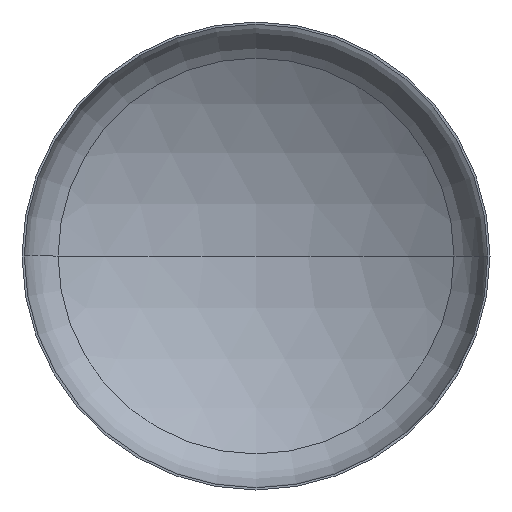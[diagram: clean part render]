
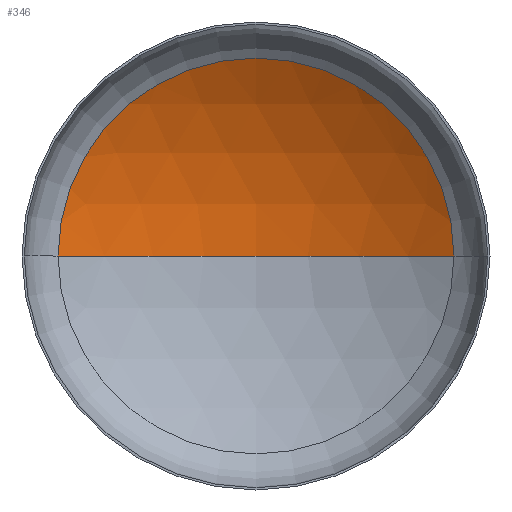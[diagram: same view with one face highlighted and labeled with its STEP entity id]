
A CAD part, front view. The second image highlights one B-rep face of the part: STEP entity #346.
In plain terms, the highlighted spherical face has radius 4400 mm.
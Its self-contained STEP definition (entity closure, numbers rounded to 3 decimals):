
#5 = CARTESIAN_POINT ( 'NONE',  ( 0., -2932.844, 0. ) ) ;
#13 = EDGE_LOOP ( 'NONE', ( #366, #357, #156 ) ) ;
#30 = DIRECTION ( 'NONE',  ( 0., 0., 1. ) ) ;
#42 = CARTESIAN_POINT ( 'NONE',  ( 0., 802.322, 0. ) ) ;
#76 = VERTEX_POINT ( 'NONE', #158 ) ;
#77 = AXIS2_PLACEMENT_3D ( 'NONE', #5, #240, #267 ) ;
#116 = EDGE_CURVE ( 'NONE', #389, #76, #370, .T. ) ;
#125 = AXIS2_PLACEMENT_3D ( 'NONE', #42, #355, #206 ) ;
#156 = ORIENTED_EDGE ( 'NONE', *, *, #116, .T. ) ;
#158 = CARTESIAN_POINT ( 'NONE',  ( -2325.626, 802.322, 0. ) ) ;
#166 = CARTESIAN_POINT ( 'NONE',  ( 0., 1467.156, 0. ) ) ;
#168 = DIRECTION ( 'NONE',  ( 0., 0., -1. ) ) ;
#180 = CIRCLE ( 'NONE', #327, 4400. ) ;
#206 = DIRECTION ( 'NONE',  ( 1., 0., 0. ) ) ;
#230 = CARTESIAN_POINT ( 'NONE',  ( 0., -2932.844, 0. ) ) ;
#237 = VERTEX_POINT ( 'NONE', #166 ) ;
#240 = DIRECTION ( 'NONE',  ( 0., 0., -1. ) ) ;
#244 = EDGE_CURVE ( 'NONE', #237, #389, #406, .T. ) ;
#252 = EDGE_CURVE ( 'NONE', #237, #76, #180, .T. ) ;
#259 = DIRECTION ( 'NONE',  ( 1., 0., 0. ) ) ;
#267 = DIRECTION ( 'NONE',  ( -1., 0., 0. ) ) ;
#289 = SPHERICAL_SURFACE ( 'NONE', #77, 4400. ) ;
#299 = FACE_OUTER_BOUND ( 'NONE', #13, .T. ) ;
#327 = AXIS2_PLACEMENT_3D ( 'NONE', #230, #30, #259 ) ;
#346 = ADVANCED_FACE ( 'NONE', ( #299 ), #289, .F. ) ;
#349 = AXIS2_PLACEMENT_3D ( 'NONE', #350, #168, #378 ) ;
#350 = CARTESIAN_POINT ( 'NONE',  ( 0., -2932.844, 0. ) ) ;
#355 = DIRECTION ( 'NONE',  ( 0., -1., 0. ) ) ;
#357 = ORIENTED_EDGE ( 'NONE', *, *, #244, .T. ) ;
#366 = ORIENTED_EDGE ( 'NONE', *, *, #252, .F. ) ;
#370 = CIRCLE ( 'NONE', #125, 2325.626 ) ;
#378 = DIRECTION ( 'NONE',  ( -1., 0., 0. ) ) ;
#388 = CARTESIAN_POINT ( 'NONE',  ( 2325.626, 802.322, 0. ) ) ;
#389 = VERTEX_POINT ( 'NONE', #388 ) ;
#406 = CIRCLE ( 'NONE', #349, 4400. ) ;
